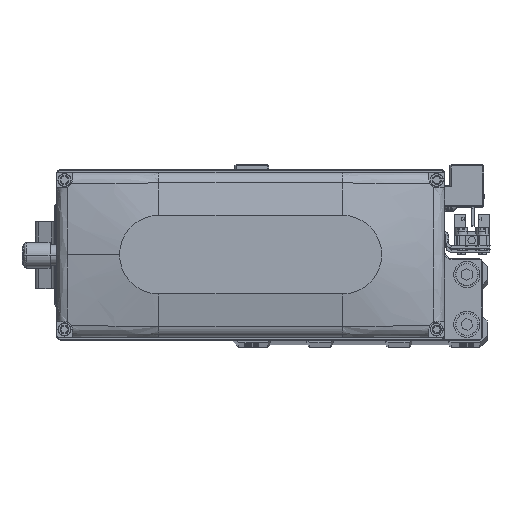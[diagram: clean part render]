
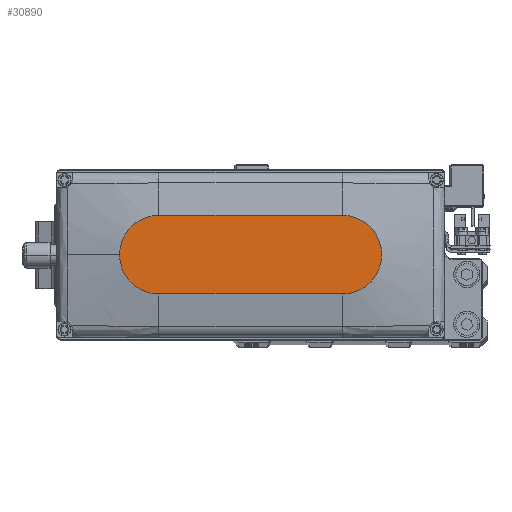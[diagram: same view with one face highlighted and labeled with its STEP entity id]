
A CAD part, top view. The second image highlights one B-rep face of the part: STEP entity #30890.
In plain terms, the highlighted planar face has unit normal (0, 0, 1).
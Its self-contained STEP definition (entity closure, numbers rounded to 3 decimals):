
#383 = EDGE_CURVE ( 'NONE', #8888, #41067, #29060, .T. ) ;
#2575 = DIRECTION ( 'NONE',  ( 0., 0., 1. ) ) ;
#3572 = LINE ( 'NONE', #17165, #26799 ) ;
#3972 = AXIS2_PLACEMENT_3D ( 'NONE', #33140, #2575, #16174 ) ;
#4275 = ORIENTED_EDGE ( 'NONE', *, *, #12410, .T. ) ;
#5021 = VECTOR ( 'NONE', #38658, 1000. ) ;
#5207 = EDGE_CURVE ( 'NONE', #41067, #40910, #42430, .T. ) ;
#5917 = DIRECTION ( 'NONE',  ( 0., 0., 1. ) ) ;
#6027 = ORIENTED_EDGE ( 'NONE', *, *, #5207, .T. ) ;
#7179 = DIRECTION ( 'NONE',  ( 1., 0., 0. ) ) ;
#8701 = EDGE_CURVE ( 'NONE', #40910, #8716, #3572, .T. ) ;
#8716 = VERTEX_POINT ( 'NONE', #37687 ) ;
#8717 = DIRECTION ( 'NONE',  ( 1., 0., 0. ) ) ;
#8888 = VERTEX_POINT ( 'NONE', #15139 ) ;
#9837 = AXIS2_PLACEMENT_3D ( 'NONE', #36473, #5917, #19490 ) ;
#10500 = PLANE ( 'NONE',  #31995 ) ;
#11463 = LINE ( 'NONE', #25043, #5021 ) ;
#12410 = EDGE_CURVE ( 'NONE', #38692, #8888, #11463, .T. ) ;
#12947 = EDGE_CURVE ( 'NONE', #8716, #38692, #36285, .T. ) ;
#15139 = CARTESIAN_POINT ( 'NONE',  ( 35., -15., 35. ) ) ;
#16174 = DIRECTION ( 'NONE',  ( 1., 0., 0. ) ) ;
#16957 = ORIENTED_EDGE ( 'NONE', *, *, #383, .T. ) ;
#17040 = AXIS2_PLACEMENT_3D ( 'NONE', #25651, #39275, #8717 ) ;
#17165 = CARTESIAN_POINT ( 'NONE',  ( -35., 15., 35. ) ) ;
#17332 = CARTESIAN_POINT ( 'NONE',  ( 50., 0., 35. ) ) ;
#19490 = DIRECTION ( 'NONE',  ( 1., 0., 0. ) ) ;
#20796 = CARTESIAN_POINT ( 'NONE',  ( -35., -15., 35. ) ) ;
#21382 = ORIENTED_EDGE ( 'NONE', *, *, #8701, .T. ) ;
#23556 = EDGE_LOOP ( 'NONE', ( #21382, #37400, #4275, #16957, #6027 ) ) ;
#24098 = CARTESIAN_POINT ( 'NONE',  ( 0., 0., 35. ) ) ;
#25043 = CARTESIAN_POINT ( 'NONE',  ( -35., -15., 35. ) ) ;
#25651 = CARTESIAN_POINT ( 'NONE',  ( -35., 0., 35. ) ) ;
#26799 = VECTOR ( 'NONE', #30763, 1000. ) ;
#29060 = CIRCLE ( 'NONE', #9837, 15. ) ;
#30763 = DIRECTION ( 'NONE',  ( -1., 0., 0. ) ) ;
#30890 = ADVANCED_FACE ( 'NONE', ( #41052 ), #10500, .T. ) ;
#31995 = AXIS2_PLACEMENT_3D ( 'NONE', #24098, #37728, #7179 ) ;
#33140 = CARTESIAN_POINT ( 'NONE',  ( 35., 0., 35. ) ) ;
#36285 = CIRCLE ( 'NONE', #17040, 15. ) ;
#36473 = CARTESIAN_POINT ( 'NONE',  ( 35., 0., 35. ) ) ;
#37400 = ORIENTED_EDGE ( 'NONE', *, *, #12947, .T. ) ;
#37687 = CARTESIAN_POINT ( 'NONE',  ( -35., 15., 35. ) ) ;
#37728 = DIRECTION ( 'NONE',  ( 0., 0., 1. ) ) ;
#38658 = DIRECTION ( 'NONE',  ( 1., 0., 0. ) ) ;
#38692 = VERTEX_POINT ( 'NONE', #20796 ) ;
#39275 = DIRECTION ( 'NONE',  ( 0., 0., 1. ) ) ;
#39677 = CARTESIAN_POINT ( 'NONE',  ( 35., 15., 35. ) ) ;
#40910 = VERTEX_POINT ( 'NONE', #39677 ) ;
#41052 = FACE_OUTER_BOUND ( 'NONE', #23556, .T. ) ;
#41067 = VERTEX_POINT ( 'NONE', #17332 ) ;
#42430 = CIRCLE ( 'NONE', #3972, 15. ) ;
